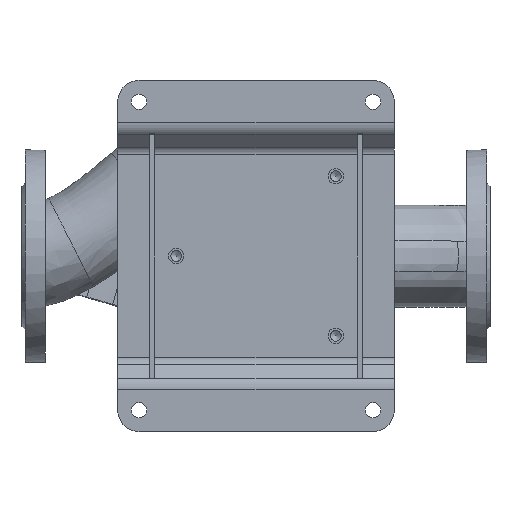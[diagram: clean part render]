
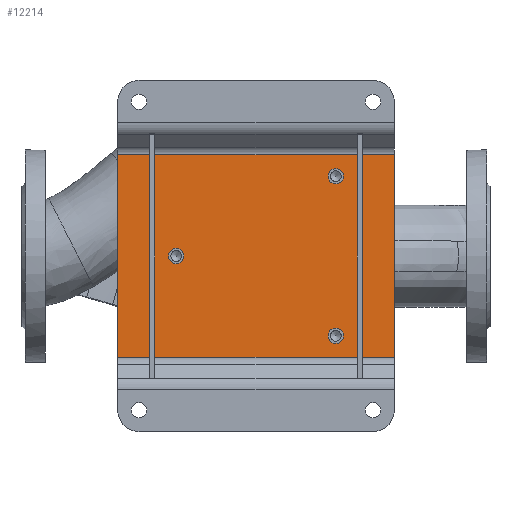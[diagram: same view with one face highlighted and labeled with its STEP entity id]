
A CAD part, top view. The second image highlights one B-rep face of the part: STEP entity #12214.
In plain terms, the highlighted planar face has unit normal (0, 0, 1) as drawn and (0, -1, 0) by its records, which use the part's own axes.
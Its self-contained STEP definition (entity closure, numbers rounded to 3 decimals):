
#5017 = AXIS2_PLACEMENT_3D ( 'NONE', #76485, #55576, #42523 ) ;
#5462 = FACE_BOUND ( 'NONE', #59143, .T. ) ;
#5628 = DIRECTION ( 'NONE',  ( 0., 0., -1. ) ) ;
#7172 = CARTESIAN_POINT ( 'NONE',  ( -95., -5., 130. ) ) ;
#8468 = CARTESIAN_POINT ( 'NONE',  ( 95., -5., -130. ) ) ;
#12214 = ADVANCED_FACE ( 'NONE', ( #79317, #5462, #82816, #24893 ), #50688, .T. ) ;
#13080 = ORIENTED_EDGE ( 'NONE', *, *, #45220, .F. ) ;
#14889 = CARTESIAN_POINT ( 'NONE',  ( 95., -5., 130. ) ) ;
#16018 = LINE ( 'NONE', #21932, #44293 ) ;
#17736 = LINE ( 'NONE', #50297, #28358 ) ;
#18988 = DIRECTION ( 'NONE',  ( -1., 0., 0. ) ) ;
#19883 = CIRCLE ( 'NONE', #67194, 7.25 ) ;
#21932 = CARTESIAN_POINT ( 'NONE',  ( 95., -5., 130. ) ) ;
#22551 = VERTEX_POINT ( 'NONE', #68409 ) ;
#22620 = CARTESIAN_POINT ( 'NONE',  ( 0., -5., -75. ) ) ;
#22926 = DIRECTION ( 'NONE',  ( 0., -1., 0. ) ) ;
#23030 = CARTESIAN_POINT ( 'NONE',  ( -95., -5., -130. ) ) ;
#23838 = DIRECTION ( 'NONE',  ( 0., 0., -1. ) ) ;
#24214 = VECTOR ( 'NONE', #65071, 1000. ) ;
#24893 = FACE_OUTER_BOUND ( 'NONE', #63814, .T. ) ;
#26568 = LINE ( 'NONE', #7172, #24214 ) ;
#28358 = VECTOR ( 'NONE', #18988, 1000. ) ;
#29119 = EDGE_LOOP ( 'NONE', ( #44491 ) ) ;
#29420 = CARTESIAN_POINT ( 'NONE',  ( -95., -5., 130. ) ) ;
#31673 = VERTEX_POINT ( 'NONE', #77332 ) ;
#32010 = EDGE_CURVE ( 'NONE', #76490, #76490, #32092, .T. ) ;
#32092 = CIRCLE ( 'NONE', #52296, 7.25 ) ;
#32978 = ORIENTED_EDGE ( 'NONE', *, *, #70728, .F. ) ;
#39938 = EDGE_CURVE ( 'NONE', #31673, #31673, #19883, .T. ) ;
#42119 = DIRECTION ( 'NONE',  ( 0., -1., 0. ) ) ;
#42523 = DIRECTION ( 'NONE',  ( 0., 0., -1. ) ) ;
#42557 = DIRECTION ( 'NONE',  ( 1., 0., 0. ) ) ;
#42944 = ORIENTED_EDGE ( 'NONE', *, *, #39938, .F. ) ;
#44293 = VECTOR ( 'NONE', #61252, 1000. ) ;
#44491 = ORIENTED_EDGE ( 'NONE', *, *, #32010, .F. ) ;
#45196 = CARTESIAN_POINT ( 'NONE',  ( -75., -5., 67.75 ) ) ;
#45220 = EDGE_CURVE ( 'NONE', #76080, #76080, #51465, .T. ) ;
#45245 = VERTEX_POINT ( 'NONE', #23030 ) ;
#45656 = EDGE_LOOP ( 'NONE', ( #42944 ) ) ;
#46030 = CARTESIAN_POINT ( 'NONE',  ( 0., -5., -82.25 ) ) ;
#48745 = DIRECTION ( 'NONE',  ( 0., 0., -1. ) ) ;
#50297 = CARTESIAN_POINT ( 'NONE',  ( -95., -5., -130. ) ) ;
#50688 = PLANE ( 'NONE',  #5017 ) ;
#51465 = CIRCLE ( 'NONE', #64935, 7.25 ) ;
#52296 = AXIS2_PLACEMENT_3D ( 'NONE', #61407, #22926, #48745 ) ;
#52512 = DIRECTION ( 'NONE',  ( 0., -1., 0. ) ) ;
#52923 = VERTEX_POINT ( 'NONE', #8468 ) ;
#55576 = DIRECTION ( 'NONE',  ( 0., -1., 0. ) ) ;
#59143 = EDGE_LOOP ( 'NONE', ( #13080 ) ) ;
#61252 = DIRECTION ( 'NONE',  ( 0., 0., -1. ) ) ;
#61407 = CARTESIAN_POINT ( 'NONE',  ( -75., -5., 75. ) ) ;
#63213 = VERTEX_POINT ( 'NONE', #14889 ) ;
#63814 = EDGE_LOOP ( 'NONE', ( #32978, #81511, #79584, #68542 ) ) ;
#64621 = VECTOR ( 'NONE', #42557, 1000. ) ;
#64935 = AXIS2_PLACEMENT_3D ( 'NONE', #22620, #42119, #23838 ) ;
#65071 = DIRECTION ( 'NONE',  ( 0., 0., 1. ) ) ;
#67194 = AXIS2_PLACEMENT_3D ( 'NONE', #77495, #52512, #5628 ) ;
#67504 = LINE ( 'NONE', #29420, #64621 ) ;
#67932 = EDGE_CURVE ( 'NONE', #22551, #63213, #67504, .T. ) ;
#68409 = CARTESIAN_POINT ( 'NONE',  ( -95., -5., 130. ) ) ;
#68542 = ORIENTED_EDGE ( 'NONE', *, *, #76310, .F. ) ;
#70728 = EDGE_CURVE ( 'NONE', #63213, #52923, #16018, .T. ) ;
#75275 = EDGE_CURVE ( 'NONE', #45245, #22551, #26568, .T. ) ;
#76080 = VERTEX_POINT ( 'NONE', #46030 ) ;
#76310 = EDGE_CURVE ( 'NONE', #52923, #45245, #17736, .T. ) ;
#76485 = CARTESIAN_POINT ( 'NONE',  ( 0., -5., 0. ) ) ;
#76490 = VERTEX_POINT ( 'NONE', #45196 ) ;
#77332 = CARTESIAN_POINT ( 'NONE',  ( 75., -5., 67.75 ) ) ;
#77495 = CARTESIAN_POINT ( 'NONE',  ( 75., -5., 75. ) ) ;
#79317 = FACE_BOUND ( 'NONE', #45656, .T. ) ;
#79584 = ORIENTED_EDGE ( 'NONE', *, *, #75275, .F. ) ;
#81511 = ORIENTED_EDGE ( 'NONE', *, *, #67932, .F. ) ;
#82816 = FACE_BOUND ( 'NONE', #29119, .T. ) ;
